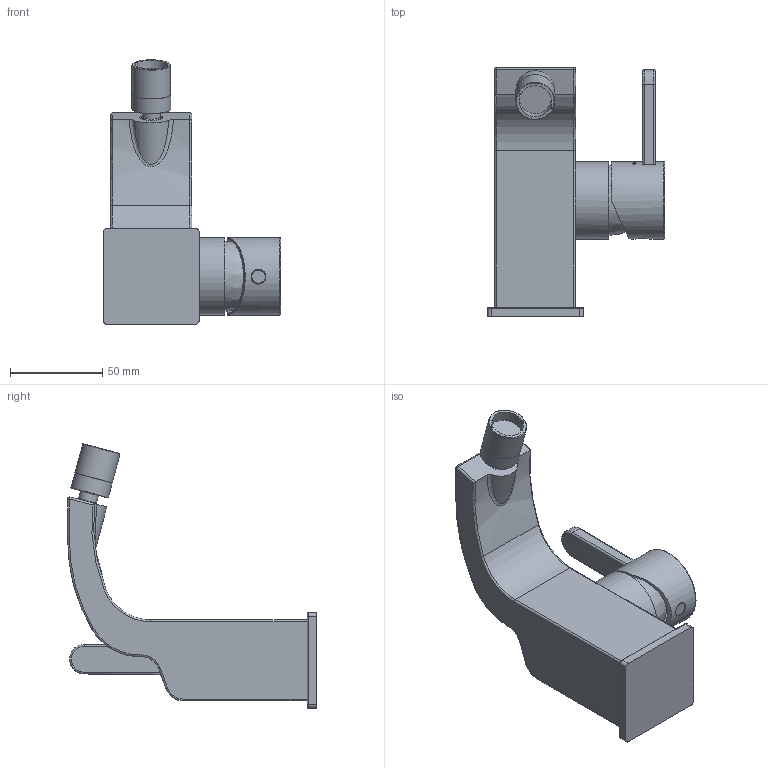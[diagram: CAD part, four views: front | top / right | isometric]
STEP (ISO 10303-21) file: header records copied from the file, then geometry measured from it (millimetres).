
FILE_DESCRIPTION(/* description */ (''),/* implementation_level */ '2;1');
FILE_NAME(/* name */ 'c:\worker\convert-fusion-r08\tmp\job-1\7\output\files\1b9f56e6-0d71-48bb-9878-082d17a940b3\30d788a7-428a-4d4c-816c-ce48a2ef3326.zip.stp',/* time_stamp */ '2019-11-26T14:39:14+00:00',/* author */ (''),/* organization */ (''),/* preprocessor_version */ 'ST-DEVELOPER v18',/* originating_system */ 'Autodesk Translation Framework v8.12.0.6',/* authorisation */ '');
FILE_SCHEMA (('AUTOMOTIVE_DESIGN { 1 0 10303 214 3 1 1 }'));
Length unit declared in the file: millimetre
Products named in the file (1): !DA5020
Bounding box: 96.2 x 135 x 143.6 mm (x, y, z)
Volume: 291346 mm3; surface area: 56959.3 mm2
Topology: 9 solids, 9 shells, 128 faces, 294 edges, 190 vertices
Faces by surface type: cylinder 45, plane 37, torus 24, bspline 19, sphere 3
Full cylindrical faces by diameter (mm): 8 x1, 10 x1, 12.5 x1, 17.5 x1, 21 x2, 37 x1, 42 x2, 42.2 x1
Entity records: 14947 total; most frequent: CARTESIAN_POINT 12010, DIRECTION 633, ORIENTED_EDGE 584, EDGE_CURVE 292, AXIS2_PLACEMENT_3D 270, VERTEX_POINT 190, CIRCLE 159, EDGE_LOOP 138
